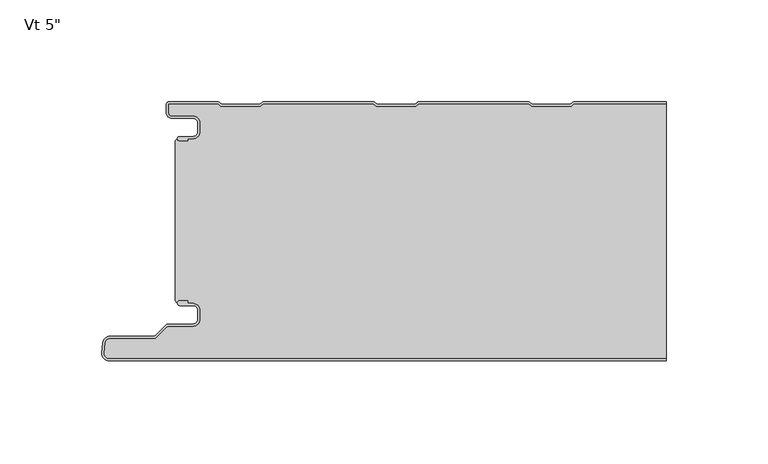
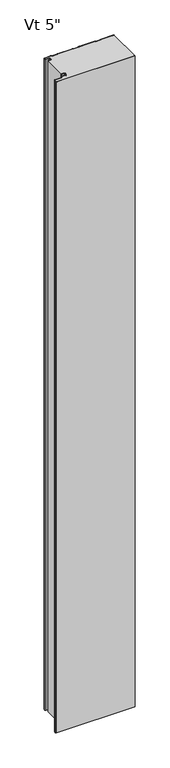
"""IFC4 building model written with IfcOpenShell, lengths in millimetres: plate geometry."""

from ifc_helpers import new_model, si_unit, point, frame, frame_2d, origin, origin_with_axes, place, context, project, spatial, polyline, circle_curve, trimmed, segment, composite_curve, outline, extrude, source, transform, mapped, element, save
from ifc_brep_helpers import plane_surface, cylinder_surface, revolved_surface, advanced_brep


def plate_43e1ebec(model_context):
    return source(origin(), model_context, "Body", "SolidModel", [
        advanced_brep(
        [(-118.368691, -17.0015034, 2400.0), (-119.3686883, -18.0015065, 2400.0), (-118.368691, -19.0014978, 2400.0), (-114.3684874, -19.0014979, 2400.0), (-114.3684874, -18.0015034, 2400.0), (-111.6762776, -18.0015034, 2400.0), (-108.3762819, -14.7015077, 2400.0), (-108.3762819, -10.3015164, 2400.0), (-111.6762774, -7.001521, 2400.0), (-122.0962563, -7.001521, 2400.0), (-123.8662505, -5.2315268, 2400.0), (-123.8662505, -0.9999791, 2400.0), (-99.3659738, -0.9999791, 2400.0), (-97.9803312, -2.2002182, 2400.0), (-78.6051649, -2.2002182, 2400.0), (-77.219532, -0.9999874, 2400.0), (-23.1661166, -0.9999874, 2400.0), (-21.7804836, -2.2002182, 2400.0), (-2.4053173, -2.2002182, 2400.0), (-1.0196844, -0.9999874, 2400.0), (53.033731, -0.9999874, 2400.0), (54.419364, -2.2002182, 2400.0), (73.7945303, -2.2002182, 2400.0), (75.1801632, -0.9999874, 2400.0), (120.3999998, -0.9999874, 2400.0), (120.3999998, 1.26e-05, 2400.0), (75.3293144, 1.26e-05, 2400.0), (74.4126975, -0.3417759, 2400.0), (73.4216499, -1.2002182, 2400.0), (54.7922444, -1.2002182, 2400.0), (53.8011968, -0.3417759, 2400.0), (52.8845799, 1.26e-05, 2400.0), (-0.8705332, 1.26e-05, 2400.0), (-1.7871501, -0.3417759, 2400.0), (-2.7781977, -1.2002182, 2400.0), (-21.4076032, -1.2002182, 2400.0), (-22.3986508, -0.3417759, 2400.0), (-23.3152677, 1.26e-05, 2400.0), (-77.0703808, 1.26e-05, 2400.0), (-77.9869977, -0.3417759, 2400.0), (-78.9780453, -1.2002182, 2400.0), (-97.6074508, -1.2002182, 2400.0), (-98.5984984, -0.3417759, 2400.0), (-99.5152067, 1.26e-05, 2400.0), (-123.4662543, 2.09e-05, 2400.0), (-124.8662505, -1.3999752, 2400.0), (-124.8662505, -5.2315268, 2400.0), (-122.0962563, -8.001521, 2400.0), (-111.6762774, -8.001521, 2400.0), (-109.3762819, -10.3015164, 2400.0), (-109.3762819, -14.7015077, 2400.0), (-111.6762776, -17.0015034, 2400.0), (-118.368691, -17.0015034, 0.0), (-111.6762776, -17.0015034, 0.0), (-109.3762819, -14.7015077, 0.0), (-109.3762819, -10.3015164, 0.0), (-111.6762774, -8.001521, 0.0), (-122.0962563, -8.001521, 0.0), (-124.8662505, -5.2315268, 0.0), (-124.8662505, -1.3999752, 0.0), (-123.4662543, 2.09e-05, 0.0), (-99.5151153, 2.09e-05, 0.0), (-98.5984984, -0.3417759, 0.0), (-97.6074508, -1.2002182, 0.0), (-78.9780453, -1.2002182, 0.0), (-77.9869977, -0.3417759, 0.0), (-77.0703808, 1.26e-05, 0.0), (-23.3152677, 1.26e-05, 0.0), (-22.3986508, -0.3417759, 0.0), (-21.4076032, -1.2002182, 0.0), (-2.7781977, -1.2002182, 0.0), (-1.7871501, -0.3417759, 0.0), (-0.8705332, 1.26e-05, 0.0), (52.8845799, 1.26e-05, 0.0), (53.8011968, -0.3417759, 0.0), (54.7922444, -1.2002182, 0.0), (73.4216499, -1.2002182, 0.0), (74.4126975, -0.3417759, 0.0), (75.3293144, 1.26e-05, 0.0), (120.3999998, 1.26e-05, 0.0), (120.3999998, -0.9999874, 0.0), (75.1801632, -0.9999874, 0.0), (73.7945303, -2.2002182, 0.0), (54.419364, -2.2002182, 0.0), (53.033731, -0.9999874, 0.0), (-1.0196844, -0.9999874, 0.0), (-2.4053173, -2.2002182, 0.0), (-21.7804836, -2.2002182, 0.0), (-23.1661166, -0.9999874, 0.0), (-77.219532, -0.9999874, 0.0), (-78.6051649, -2.2002182, 0.0), (-97.9803312, -2.2002182, 0.0), (-99.3659738, -0.9999791, 0.0), (-123.8662505, -0.9999791, 0.0), (-123.8662505, -5.2315268, 0.0), (-122.0962563, -7.001521, 0.0), (-111.6762774, -7.001521, 0.0), (-108.3762819, -10.3015164, 0.0), (-108.3762819, -14.7015077, 0.0), (-111.6762776, -18.0015034, 0.0), (-114.3684874, -18.0015034, 0.0), (-114.3684874, -19.0014979, 0.0), (-118.368691, -19.0014979, 0.0), (-119.3686882, -18.0015065, 0.0)],
        [
            (0, 1, circle_curve(frame((-118.368691, -18.0015006, 2400.0), z_axis=(0.0, 0.0, 1.0), x_axis=(1.0, 0.0, 0.0)), 0.9999973)),
            (1, 2, circle_curve(frame((-118.368691, -18.0015006, 2400.0), z_axis=(0.0, 0.0, 1.0), x_axis=(1.0, 0.0, 0.0)), 0.9999972)),
            (2, 3),
            (3, 4),
            (4, 5),
            (5, 6, circle_curve(frame((-111.6762776, -14.7015077, 2400.0), z_axis=(0.0, 0.0, 1.0), x_axis=(1.0, 0.0, 0.0)), 3.2999957)),
            (6, 7),
            (7, 8, circle_curve(frame((-111.6762774, -10.3015164, 2400.0), z_axis=(0.0, 0.0, 1.0), x_axis=(1.0, 0.0, 0.0)), 3.2999955)),
            (8, 9),
            (9, 10, circle_curve(frame((-122.0962563, -5.2315268, 2400.0), z_axis=(0.0, 0.0, -1.0), x_axis=(1.0, 0.0, 0.0)), 1.7699942)),
            (10, 11),
            (11, 12),
            (12, 13),
            (13, 14),
            (14, 15),
            (15, 16),
            (16, 17),
            (17, 18),
            (18, 19),
            (19, 20),
            (20, 21),
            (21, 22),
            (22, 23),
            (23, 24),
            (24, 25),
            (25, 26),
            (26, 27, circle_curve(frame((75.3293144, -1.3999846, 2400.0), z_axis=(0.0, 0.0, 1.0), x_axis=(1.0, 0.0, 0.0)), 1.3999972)),
            (27, 28),
            (28, 29),
            (29, 30),
            (30, 31, circle_curve(frame((52.8845799, -1.3999846, 2400.0), z_axis=(0.0, 0.0, 1.0), x_axis=(1.0, 0.0, 0.0)), 1.3999972)),
            (31, 32),
            (32, 33, circle_curve(frame((-0.8705332, -1.3999846, 2400.0), z_axis=(0.0, 0.0, 1.0), x_axis=(1.0, 0.0, 0.0)), 1.3999972)),
            (33, 34),
            (34, 35),
            (35, 36),
            (36, 37, circle_curve(frame((-23.3152677, -1.3999846, 2400.0), z_axis=(0.0, 0.0, 1.0), x_axis=(1.0, 0.0, 0.0)), 1.3999972)),
            (37, 38),
            (38, 39, circle_curve(frame((-77.0703808, -1.3999846, 2400.0), z_axis=(0.0, 0.0, 1.0), x_axis=(1.0, 0.0, 0.0)), 1.3999972)),
            (39, 40),
            (40, 41),
            (41, 42),
            (42, 43, circle_curve(frame((-99.5151153, -1.3999846, 2400.0), z_axis=(0.0, 0.0, 1.0), x_axis=(1.0, 0.0, 0.0)), 1.3999972)),
            (43, 44),
            (44, 45, circle_curve(frame((-123.4662543, -1.3999752, 2400.0), z_axis=(0.0, 0.0, 1.0), x_axis=(1.0, 0.0, 0.0)), 1.3999962)),
            (45, 46),
            (46, 47, circle_curve(frame((-122.0962563, -5.2315268, 2400.0), z_axis=(0.0, 0.0, 1.0), x_axis=(1.0, 0.0, 0.0)), 2.7699942)),
            (47, 48),
            (48, 49, circle_curve(frame((-111.6762774, -10.3015164, 2400.0), z_axis=(0.0, 0.0, -1.0), x_axis=(1.0, 0.0, 0.0)), 2.2999955)),
            (49, 50),
            (50, 51, circle_curve(frame((-111.6762776, -14.7015077, 2400.0), z_axis=(0.0, 0.0, -1.0), x_axis=(1.0, 0.0, 0.0)), 2.2999957)),
            (51, 0),
            (52, 53),
            (53, 54, circle_curve(frame((-111.6762776, -14.7015077, 0.0), z_axis=(0.0, 0.0, 1.0), x_axis=(1.0, 0.0, 0.0)), 2.2999957)),
            (54, 55),
            (55, 56, circle_curve(frame((-111.6762774, -10.3015164, 0.0), z_axis=(0.0, 0.0, 1.0), x_axis=(1.0, 0.0, 0.0)), 2.2999955)),
            (56, 57),
            (57, 58, circle_curve(frame((-122.0962563, -5.2315268, 0.0), z_axis=(0.0, 0.0, -1.0), x_axis=(1.0, 0.0, 0.0)), 2.7699942)),
            (58, 59),
            (59, 60, circle_curve(frame((-123.4662543, -1.3999752, 0.0), z_axis=(0.0, 0.0, -1.0), x_axis=(1.0, 0.0, 0.0)), 1.3999962)),
            (60, 61),
            (61, 62, circle_curve(frame((-99.5151153, -1.3999846, 0.0), z_axis=(0.0, 0.0, -1.0), x_axis=(1.0, 0.0, 0.0)), 1.3999972)),
            (62, 63),
            (63, 64),
            (64, 65),
            (65, 66, circle_curve(frame((-77.0703808, -1.3999846, 0.0), z_axis=(0.0, 0.0, -1.0), x_axis=(1.0, 0.0, 0.0)), 1.3999972)),
            (66, 67),
            (67, 68, circle_curve(frame((-23.3152677, -1.3999846, 0.0), z_axis=(0.0, 0.0, -1.0), x_axis=(1.0, 0.0, 0.0)), 1.3999972)),
            (68, 69),
            (69, 70),
            (70, 71),
            (71, 72, circle_curve(frame((-0.8705332, -1.3999846, 0.0), z_axis=(0.0, 0.0, -1.0), x_axis=(1.0, 0.0, 0.0)), 1.3999972)),
            (72, 73),
            (73, 74, circle_curve(frame((52.8845799, -1.3999846, 0.0), z_axis=(0.0, 0.0, -1.0), x_axis=(1.0, 0.0, 0.0)), 1.3999972)),
            (74, 75),
            (75, 76),
            (76, 77),
            (77, 78, circle_curve(frame((75.3293144, -1.3999846, 0.0), z_axis=(0.0, 0.0, -1.0), x_axis=(1.0, 0.0, 0.0)), 1.3999972)),
            (78, 79),
            (79, 80),
            (80, 81),
            (81, 82),
            (82, 83),
            (83, 84),
            (84, 85),
            (85, 86),
            (86, 87),
            (87, 88),
            (88, 89),
            (89, 90),
            (90, 91),
            (91, 92),
            (92, 93),
            (93, 94),
            (94, 95, circle_curve(frame((-122.0962563, -5.2315268, 0.0), z_axis=(0.0, 0.0, 1.0), x_axis=(1.0, 0.0, 0.0)), 1.7699942)),
            (95, 96),
            (96, 97, circle_curve(frame((-111.6762774, -10.3015164, 0.0), z_axis=(0.0, 0.0, -1.0), x_axis=(1.0, 0.0, 0.0)), 3.2999955)),
            (97, 98),
            (98, 99, circle_curve(frame((-111.6762776, -14.7015077, 0.0), z_axis=(0.0, 0.0, -1.0), x_axis=(1.0, 0.0, 0.0)), 3.2999957)),
            (99, 100),
            (100, 101),
            (101, 102),
            (102, 103, circle_curve(frame((-118.368691, -18.0015006, 0.0), z_axis=(0.0, 0.0, -1.0), x_axis=(1.0, 0.0, 0.0)), 0.9999972)),
            (103, 52, circle_curve(frame((-118.368691, -18.0015006, 0.0), z_axis=(0.0, 0.0, -1.0), x_axis=(1.0, 0.0, 0.0)), 0.9999973)),
            (24, 80),
            (79, 25),
            (51, 53),
            (52, 0),
            (50, 54),
            (49, 55),
            (48, 56),
            (47, 57),
            (46, 58),
            (45, 59),
            (44, 60),
            (43, 61),
            (78, 26),
            (42, 62),
            (41, 63),
            (40, 64),
            (38, 66),
            (65, 39),
            (36, 68),
            (67, 37),
            (77, 27),
            (76, 28),
            (31, 73),
            (72, 32),
            (71, 33),
            (34, 70),
            (69, 35),
            (30, 74),
            (29, 75),
            (2, 102),
            (101, 3),
            (1, 103),
            (23, 81),
            (22, 82),
            (21, 83),
            (20, 84),
            (19, 85),
            (18, 86),
            (17, 87),
            (16, 88),
            (15, 89),
            (14, 90),
            (13, 91),
            (12, 92),
            (11, 93),
            (10, 94),
            (9, 95),
            (8, 96),
            (7, 97),
            (6, 98),
            (5, 99),
            (4, 100),
        ],
        [
            plane_surface(frame((184.4000002, 1.26e-05, 2400.0), z_axis=(0.0, 0.0, 1.0), x_axis=(0.0, 1.0, 0.0))),
            plane_surface(frame((184.4000002, 1.26e-05, 0.0), z_axis=(0.0, 0.0, -1.0), x_axis=(0.0, 1.0, 0.0))),
            plane_surface(frame((120.3999998, -136.9999874, 2400.0), z_axis=(1.0, 0.0, 0.0), x_axis=(0.0, 0.0, -1.0))),
            plane_surface(frame((-118.368691, -17.0015034, 2400.0), z_axis=(0.0, 1.0, 0.0), x_axis=(0.0, 0.0, -1.0))),
            revolved_surface(polyline([(-109.37628190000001, -14.7015077, 0.0), (-109.37628190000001, -14.7015077, 2400.0)]), (-111.6762776, -14.7015077, 2400.0), (0.0, 0.0, -1.0)),
            plane_surface(frame((-109.3762819, -14.7015077, 2400.0), z_axis=(-1.0, 0.0, 0.0), x_axis=(0.0, 0.0, -1.0))),
            revolved_surface(polyline([(-109.37628190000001, -10.3015164, 0.0), (-109.37628190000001, -10.3015164, 2400.0)]), (-111.6762774, -10.3015164, 2400.0), (0.0, 0.0, -1.0)),
            plane_surface(frame((-111.6762774, -8.001521, 2400.0), z_axis=(0.0, -1.0, 0.0), x_axis=(0.0, 0.0, -1.0))),
            cylinder_surface(frame((-122.0962563, -5.2315268, 2400.0), z_axis=(0.0, 0.0, 1.0), x_axis=(1.0, 0.0, 0.0)), 2.7699942),
            plane_surface(frame((-124.8662505, -5.2315268, 2400.0), z_axis=(-1.0, 0.0, 0.0), x_axis=(0.0, 0.0, -1.0))),
            cylinder_surface(frame((-123.4662543, -1.3999752, 2400.0), z_axis=(0.0, 0.0, 1.0), x_axis=(1.0, 0.0, 0.0)), 1.3999962),
            plane_surface(frame((-123.4662543, 2.09e-05, 2400.0), z_axis=(0.0, 1.0, 0.0), x_axis=(0.0, 0.0, -1.0))),
            plane_surface(frame((75.3293144, 1.26e-05, 2400.0), z_axis=(0.0, 1.0, 0.0), x_axis=(0.0, 0.0, -1.0))),
            cylinder_surface(frame((-99.5151153, -1.3999846, 2400.0), z_axis=(0.0, 0.0, 1.0), x_axis=(1.0, 0.0, 0.0)), 1.3999972),
            plane_surface(frame((-98.5984984, -0.3417759, 2400.0), z_axis=(0.6547276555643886, 0.755864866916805, 0.0), x_axis=(0.0, 0.0, -1.0))),
            plane_surface(frame((-88.2927481, -1.2002182, 2400.0), z_axis=(0.0, 1.0, 0.0), x_axis=(0.0, 0.0, -1.0))),
            cylinder_surface(frame((-77.0703808, -1.3999846, 2400.0), z_axis=(0.0, 0.0, 1.0), x_axis=(1.0, 0.0, 0.0)), 1.3999972),
            plane_surface(frame((-78.9780453, -1.2002182, 2400.0), z_axis=(-0.6547276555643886, 0.755864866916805, 0.0), x_axis=(0.0, 0.0, -1.0))),
            cylinder_surface(frame((-23.3152677, -1.3999846, 2400.0), z_axis=(0.0, 0.0, 1.0), x_axis=(1.0, 0.0, 0.0)), 1.3999972),
            cylinder_surface(frame((75.3293144, -1.3999846, 2400.0), z_axis=(0.0, 0.0, 1.0), x_axis=(1.0, 0.0, 0.0)), 1.3999972),
            plane_surface(frame((73.4216499, -1.2002182, 2400.0), z_axis=(-0.6547276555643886, 0.755864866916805, 0.0), x_axis=(0.0, 0.0, -1.0))),
            plane_surface(frame((-0.8705332, 1.26e-05, 2400.0), z_axis=(0.0, 1.0, 0.0), x_axis=(0.0, 0.0, -1.0))),
            cylinder_surface(frame((-0.8705332, -1.3999846, 2400.0), z_axis=(0.0, 0.0, 1.0), x_axis=(1.0, 0.0, 0.0)), 1.3999972),
            plane_surface(frame((-12.0929005, -1.2002182, 2400.0), z_axis=(0.0, 1.0, 0.0), x_axis=(0.0, 0.0, -1.0))),
            plane_surface(frame((-22.3986508, -0.3417759, 2400.0), z_axis=(0.6547276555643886, 0.755864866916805, 0.0), x_axis=(0.0, 0.0, -1.0))),
            plane_surface(frame((-2.7781977, -1.2002182, 2400.0), z_axis=(-0.6547276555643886, 0.755864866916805, 0.0), x_axis=(0.0, 0.0, -1.0))),
            plane_surface(frame((-77.0703808, 1.26e-05, 2400.0), z_axis=(0.0, 1.0, 0.0), x_axis=(0.0, 0.0, -1.0))),
            cylinder_surface(frame((52.8845799, -1.3999846, 2400.0), z_axis=(0.0, 0.0, 1.0), x_axis=(1.0, 0.0, 0.0)), 1.3999972),
            plane_surface(frame((53.8011968, -0.3417759, 2400.0), z_axis=(0.6547276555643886, 0.755864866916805, 0.0), x_axis=(0.0, 0.0, -1.0))),
            plane_surface(frame((64.1069471, -1.2002182, 2400.0), z_axis=(0.0, 1.0, 0.0), x_axis=(0.0, 0.0, -1.0))),
            plane_surface(frame((-114.3684874, -19.0014979, 2400.0), z_axis=(0.0, -1.0, 0.0), x_axis=(0.0, 0.0, -1.0))),
            cylinder_surface(frame((-118.368691, -18.0015006, 2400.0), z_axis=(0.0, 0.0, 1.0), x_axis=(1.0, 0.0, 0.0)), 0.9999972),
            cylinder_surface(frame((-118.368691, -18.0015006, 2400.0), z_axis=(0.0, 0.0, 1.0), x_axis=(1.0, 0.0, 0.0)), 0.9999973),
            plane_surface(frame((129.2335786, -0.9999874, 2400.0), z_axis=(0.0, -1.0, 0.0), x_axis=(0.0, 0.0, -1.0))),
            plane_surface(frame((75.1801632, -0.9999874, 2400.0), z_axis=(0.6547276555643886, -0.755864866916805, 0.0), x_axis=(0.0, 0.0, -1.0))),
            plane_surface(frame((73.7945303, -2.2002182, 2400.0), z_axis=(0.0, -1.0, 0.0), x_axis=(0.0, 0.0, -1.0))),
            plane_surface(frame((54.419364, -2.2002182, 2400.0), z_axis=(-0.6547276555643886, -0.755864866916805, 0.0), x_axis=(0.0, 0.0, -1.0))),
            plane_surface(frame((53.033731, -0.9999874, 2400.0), z_axis=(0.0, -1.0, 0.0), x_axis=(0.0, 0.0, -1.0))),
            plane_surface(frame((-1.0196844, -0.9999874, 2400.0), z_axis=(0.6547276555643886, -0.755864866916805, 0.0), x_axis=(0.0, 0.0, -1.0))),
            plane_surface(frame((-2.4053173, -2.2002182, 2400.0), z_axis=(0.0, -1.0, 0.0), x_axis=(0.0, 0.0, -1.0))),
            plane_surface(frame((-21.7804836, -2.2002182, 2400.0), z_axis=(-0.6547276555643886, -0.755864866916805, 0.0), x_axis=(0.0, 0.0, -1.0))),
            plane_surface(frame((-23.1661166, -0.9999874, 2400.0), z_axis=(0.0, -1.0, 0.0), x_axis=(0.0, 0.0, -1.0))),
            plane_surface(frame((-77.219532, -0.9999874, 2400.0), z_axis=(0.6547276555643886, -0.755864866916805, 0.0), x_axis=(0.0, 0.0, -1.0))),
            plane_surface(frame((-78.6051649, -2.2002182, 2400.0), z_axis=(0.0, -1.0, 0.0), x_axis=(0.0, 0.0, -1.0))),
            plane_surface(frame((-97.9803312, -2.2002182, 2400.0), z_axis=(-0.6547276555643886, -0.755864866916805, 0.0), x_axis=(0.0, 0.0, -1.0))),
            plane_surface(frame((-99.3659738, -0.9999791, 2400.0), z_axis=(0.0, -1.0, 0.0), x_axis=(0.0, 0.0, -1.0))),
            plane_surface(frame((-123.8662505, -0.9999791, 2400.0), z_axis=(1.0, 0.0, 0.0), x_axis=(0.0, 0.0, -1.0))),
            revolved_surface(polyline([(-120.3262621, -5.2315268, 0.0), (-120.3262621, -5.2315268, 2400.0)]), (-122.0962563, -5.2315268, 2400.0), (0.0, 0.0, -1.0)),
            plane_surface(frame((-122.0962563, -7.001521, 2400.0), z_axis=(0.0, 1.0, 0.0), x_axis=(0.0, 0.0, -1.0))),
            cylinder_surface(frame((-111.6762774, -10.3015164, 2400.0), z_axis=(0.0, 0.0, 1.0), x_axis=(1.0, 0.0, 0.0)), 3.2999955),
            plane_surface(frame((-108.3762819, -10.3015164, 2400.0), z_axis=(1.0, 0.0, 0.0), x_axis=(0.0, 0.0, -1.0))),
            cylinder_surface(frame((-111.6762776, -14.7015077, 2400.0), z_axis=(0.0, 0.0, 1.0), x_axis=(1.0, 0.0, 0.0)), 3.2999957),
            plane_surface(frame((-111.6762776, -18.0015034, 2400.0), z_axis=(0.0, -1.0, 0.0), x_axis=(0.0, 0.0, -1.0))),
            plane_surface(frame((-114.3684874, -18.0015034, 2400.0), z_axis=(1.0, 0.0, 0.0), x_axis=(0.0, 0.0, -1.0))),
        ],
        [
            (0, [[1, 2, 3, 4, 5, 6, 7, 8, 9, 10, 11, 12, 13, 14, 15, 16, 17, 18, 19, 20, 21, 22, 23, 24, 25, 26, 27, 28, 29, 30, 31, 32, 33, 34, 35, 36, 37, 38, 39, 40, 41, 42, 43, 44, 45, 46, 47, 48, 49, 50, 51, 52]]),
            (1, [[53, 54, 55, 56, 57, 58, 59, 60, 61, 62, 63, 64, 65, 66, 67, 68, 69, 70, 71, 72, 73, 74, 75, 76, 77, 78, 79, 80, 81, 82, 83, 84, 85, 86, 87, 88, 89, 90, 91, 92, 93, 94, 95, 96, 97, 98, 99, 100, 101, 102, 103, 104]]),
            (2, [[105, -80, 106, -25]]),
            (3, [[107, -53, 108, -52]]),
            (4, [[109, -54, -107, -51]]),
            (5, [[110, -55, -109, -50]]),
            (6, [[111, -56, -110, -49]]),
            (7, [[112, -57, -111, -48]]),
            (8, [[113, -58, -112, -47]]),
            (9, [[114, -59, -113, -46]]),
            (10, [[115, -60, -114, -45]]),
            (11, [[116, -61, -115, -44]]),
            (12, [[-26, -106, -79, 117]]),
            (13, [[118, -62, -116, -43]]),
            (14, [[119, -63, -118, -42]]),
            (15, [[120, -64, -119, -41]]),
            (16, [[121, -66, 122, -39]]),
            (17, [[-122, -65, -120, -40]]),
            (18, [[123, -68, 124, -37]]),
            (19, [[-117, -78, 125, -27]]),
            (20, [[-125, -77, 126, -28]]),
            (21, [[127, -73, 128, -32]]),
            (22, [[-128, -72, 129, -33]]),
            (23, [[130, -70, 131, -35]]),
            (24, [[-131, -69, -123, -36]]),
            (25, [[-129, -71, -130, -34]]),
            (26, [[-124, -67, -121, -38]]),
            (27, [[132, -74, -127, -31]]),
            (28, [[133, -75, -132, -30]]),
            (29, [[-126, -76, -133, -29]]),
            (30, [[134, -102, 135, -3]]),
            (31, [[136, -103, -134, -2]]),
            (32, [[-108, -104, -136, -1]]),
            (33, [[-81, -105, -24, 137]]),
            (34, [[138, -82, -137, -23]]),
            (35, [[139, -83, -138, -22]]),
            (36, [[140, -84, -139, -21]]),
            (37, [[141, -85, -140, -20]]),
            (38, [[142, -86, -141, -19]]),
            (39, [[143, -87, -142, -18]]),
            (40, [[144, -88, -143, -17]]),
            (41, [[145, -89, -144, -16]]),
            (42, [[146, -90, -145, -15]]),
            (43, [[147, -91, -146, -14]]),
            (44, [[148, -92, -147, -13]]),
            (45, [[149, -93, -148, -12]]),
            (46, [[150, -94, -149, -11]]),
            (47, [[151, -95, -150, -10]]),
            (48, [[152, -96, -151, -9]]),
            (49, [[153, -97, -152, -8]]),
            (50, [[154, -98, -153, -7]]),
            (51, [[155, -99, -154, -6]]),
            (52, [[156, -100, -155, -5]]),
            (53, [[-135, -101, -156, -4]]),
        ],
    ),
        extrude(outline(composite_curve([segment(polyline([(-156.4087505, -123.1183478), (-155.9690674, -118.0944311)]), True, "CONTINUOUS"), segment(trimmed(circle_curve(frame_2d((-152.3198391, -118.7052322)), 3.6999926), [point((-155.9690674, -118.0944311))], [point((-152.3198391, -115.0052396))], False, "CARTESIAN"), True, "CONTINUOUS"), segment(polyline([(-152.3198391, -115.0052396), (-131.1773995, -115.0052396)]), True, "CONTINUOUS"), segment(trimmed(circle_curve(frame_2d((-131.1773995, -113.7052422)), 1.2999974), [point((-131.1773995, -115.0052396))], [point((-130.2581626, -114.6244792))], True, "CARTESIAN"), True, "CONTINUOUS"), segment(polyline([(-130.2581626, -114.6244792), (-125.4297451, -109.7960618)]), True, "CONTINUOUS"), segment(trimmed(circle_curve(frame_2d((-123.5205606, -111.7052462)), 2.6999946), [point((-125.4297451, -109.7960618))], [point((-123.5205606, -109.0052516))], False, "CARTESIAN"), True, "CONTINUOUS"), segment(polyline([(-123.5205606, -109.0052516), (-111.7096715, -109.0052516)]), True, "CONTINUOUS"), segment(trimmed(circle_curve(frame_2d((-111.7096715, -106.6552563)), 2.3499953), [point((-111.7096715, -109.0052516))], [point((-109.3596762, -106.6552563))], True, "CARTESIAN"), True, "CONTINUOUS"), segment(polyline([(-109.3596762, -106.6552563), (-109.3596762, -102.2552651)]), True, "CONTINUOUS"), segment(trimmed(circle_curve(frame_2d((-111.7096715, -102.2552651)), 2.3499953), [point((-109.3596762, -102.2552651))], [point((-111.7096715, -99.9052698))], True, "CARTESIAN"), True, "CONTINUOUS"), segment(polyline([(-111.7096715, -99.9052698), (-118.2289777, -99.9052698)]), True, "CONTINUOUS"), segment(trimmed(circle_curve(frame_2d((-118.1686906, -98.7067876)), 1.1999976), [point((-118.2289777, -99.9052698))], [point((-119.3683, -98.6762657))], False, "CARTESIAN"), True, "CONTINUOUS"), segment(trimmed(circle_curve(frame_2d((-118.1686906, -98.7067876)), 1.1999976), [point((-119.3683, -98.6762657))], [point((-118.167176, -97.506791))], False, "CARTESIAN"), True, "CONTINUOUS"), segment(polyline([(-118.167176, -97.506791), (-114.4087826, -97.506791), (-114.4087826, -98.9052698), (-111.7096715, -98.9052698)]), True, "CONTINUOUS"), segment(trimmed(circle_curve(frame_2d((-111.7096715, -102.2552651)), 3.3499953), [point((-111.7096715, -98.9052698))], [point((-108.3596762, -102.2552651))], False, "CARTESIAN"), True, "CONTINUOUS"), segment(polyline([(-108.3596762, -102.2552651), (-108.3596762, -106.6552563)]), True, "CONTINUOUS"), segment(trimmed(circle_curve(frame_2d((-111.7096715, -106.6552563)), 3.3499953), [point((-108.3596762, -106.6552563))], [point((-111.7096715, -110.0052516))], False, "CARTESIAN"), True, "CONTINUOUS"), segment(polyline([(-111.7096715, -110.0052516), (-123.5205606, -110.0052516)]), True, "CONTINUOUS"), segment(trimmed(circle_curve(frame_2d((-123.5205606, -111.7052462)), 1.6999946), [point((-123.5205606, -110.0052516))], [point((-124.7226383, -110.5031685))], True, "CARTESIAN"), True, "CONTINUOUS"), segment(polyline([(-124.7226383, -110.5031685), (-130.2247094, -116.0052396), (-152.3198391, -116.0052396)]), True, "CONTINUOUS"), segment(trimmed(circle_curve(frame_2d((-152.3198391, -118.7052322)), 2.6999926), [point((-152.3198391, -116.0052396))], [point((-154.9765707, -118.2238416))], True, "CARTESIAN"), True, "CONTINUOUS"), segment(polyline([(-154.9765707, -118.2238416), (-155.4125697, -123.2056625)]), True, "CONTINUOUS"), segment(trimmed(circle_curve(frame_2d((-152.8521175, -123.4297482)), 2.5702393), [point((-155.4125697, -123.2056625))], [point((-152.9094458, -125.999348))], True, "CARTESIAN"), True, "CONTINUOUS"), segment(polyline([(-152.9094458, -125.999348), (120.3999998, -125.999348), (120.3999998, -126.9996828), (-152.8521038, -126.9998575)]), True, "CONTINUOUS"), segment(trimmed(circle_curve(frame_2d((-152.8521061, -123.4296182)), 3.5702393), [point((-152.8521038, -126.9998575))], [point((-156.4087505, -123.1183478))], False, "CARTESIAN"), True, "CONTINUOUS")], self_intersect=False)), origin_with_axes(), (0.0, 0.0, 1.0), 2400.0),
        advanced_brep(
        [(-119.3683, -98.6708624, 2400.0), (-118.167176, -97.5013877, 2400.0), (-114.4087826, -97.5013877, 2400.0), (-114.4087826, -98.8998666, 2400.0), (-111.7096715, -98.8998666, 2400.0), (-108.3596762, -102.2498619, 2400.0), (-108.3596762, -106.6498531, 2400.0), (-111.7096715, -109.9998484, 2400.0), (-123.5205606, -109.9998484, 2400.0), (-124.7226383, -110.4977653, 2400.0), (-130.2247094, -115.9998364, 2400.0), (-152.3198391, -115.9998364, 2400.0), (-154.9765707, -118.2184384, 2400.0), (-155.4125697, -123.2002592, 2400.0), (-152.8521175, -125.9945842, 2400.0), (120.3999998, -125.9999874, 2400.0), (120.3999998, -0.9999874, 2400.0), (75.1801633, -0.9999874, 2400.0), (73.7945303, -2.2002182, 2400.0), (54.419364, -2.2002182, 2400.0), (53.0337311, -0.9999874, 2400.0), (-1.0196843, -0.9999874, 2400.0), (-2.4053173, -2.2002182, 2400.0), (-21.7804836, -2.2002182, 2400.0), (-23.1661165, -0.9999874, 2400.0), (-77.2195319, -0.9999874, 2400.0), (-78.6051649, -2.2002182, 2400.0), (-97.9803312, -2.2002182, 2400.0), (-99.3659738, -0.9999791, 2400.0), (-123.8662504, -0.9999791, 2400.0), (-123.8662504, -5.2315264, 2400.0), (-122.0962562, -7.0015206, 2400.0), (-111.6762777, -7.0015206, 2400.0), (-108.3762818, -10.3015164, 2400.0), (-108.3762818, -14.7015077, 2400.0), (-111.6762775, -18.0015034, 2400.0), (-114.3684873, -18.0015034, 2400.0), (-114.3684873, -19.0014979, 2400.0), (-118.368691, -19.0014979, 2400.0), (-119.3686882, -18.0015066, 2400.0), (-120.3999998, -19.0328183, 2400.0), (-120.3999998, -97.6391626, 2400.0), (-119.3683, -98.6708624, 0.0), (-120.3999998, -97.6391626, 0.0), (-120.3999998, -19.0328183, 0.0), (-119.3686882, -18.0015066, 0.0), (-118.368691, -19.0014979, 0.0), (-114.3684873, -19.0014979, 0.0), (-114.3684873, -18.0015034, 0.0), (-111.6762775, -18.0015034, 0.0), (-108.3762818, -14.7015077, 0.0), (-108.3762818, -10.3015164, 0.0), (-111.6762777, -7.0015206, 0.0), (-122.0962562, -7.0015206, 0.0), (-123.8662504, -5.2315264, 0.0), (-123.8662504, -0.9999791, 0.0), (-99.3659738, -0.9999791, 0.0), (-97.9803312, -2.2002182, 0.0), (-78.6051649, -2.2002182, 0.0), (-77.2195319, -0.9999874, 0.0), (-23.1661165, -0.9999874, 0.0), (-21.7804836, -2.2002182, 0.0), (-2.4053173, -2.2002182, 0.0), (-1.0196843, -0.9999874, 0.0), (53.0337311, -0.9999874, 0.0), (54.419364, -2.2002182, 0.0), (73.7945303, -2.2002182, 0.0), (75.1801633, -0.9999874, 0.0), (120.3999998, -0.9999874, 0.0), (120.3999998, -125.9999874, 0.0), (-152.8521175, -125.9999874, 0.0), (-155.4125697, -123.2002592, 0.0), (-154.9765707, -118.2184384, 0.0), (-152.3198391, -115.9998364, 0.0), (-130.2247094, -115.9998364, 0.0), (-124.7226383, -110.4977653, 0.0), (-123.5205606, -109.9998484, 0.0), (-111.7096715, -109.9998484, 0.0), (-108.3596762, -106.6498531, 0.0), (-108.3596762, -102.2498619, 0.0), (-111.7096715, -98.8998666, 0.0), (-114.4087826, -98.8998666, 0.0), (-114.4087826, -97.5013877, 0.0), (-118.167176, -97.5013877, 0.0)],
        [
            (0, 1, circle_curve(frame((-118.1686906, -98.7013843, 2400.0), z_axis=(0.0, 0.0, -1.0), x_axis=(-1.0, 0.0, 0.0)), 1.1999976)),
            (1, 2),
            (2, 3),
            (3, 4),
            (4, 5, circle_curve(frame((-111.7096715, -102.2498619, 2400.0), z_axis=(0.0, 0.0, -1.0), x_axis=(-1.0, 0.0, 0.0)), 3.3499953)),
            (5, 6),
            (6, 7, circle_curve(frame((-111.7096715, -106.6498531, 2400.0), z_axis=(0.0, 0.0, -1.0), x_axis=(-1.0, 0.0, 0.0)), 3.3499953)),
            (7, 8),
            (8, 9, circle_curve(frame((-123.5205606, -111.699843, 2400.0), z_axis=(0.0, 0.0, 1.0), x_axis=(-1.0, 0.0, 0.0)), 1.6999946)),
            (9, 10),
            (10, 11),
            (11, 12, circle_curve(frame((-152.3198391, -118.699829, 2400.0), z_axis=(0.0, 0.0, 1.0), x_axis=(-1.0, 0.0, 0.0)), 2.6999926)),
            (12, 13),
            (13, 14, circle_curve(frame((-152.8521175, -123.4243449, 2400.0), z_axis=(0.0, 0.0, 1.0), x_axis=(-1.0, 0.0, 0.0)), 2.5702393)),
            (14, 15),
            (15, 16),
            (16, 17),
            (17, 18),
            (18, 19),
            (19, 20),
            (20, 21),
            (21, 22),
            (22, 23),
            (23, 24),
            (24, 25),
            (25, 26),
            (26, 27),
            (27, 28),
            (28, 29),
            (29, 30),
            (30, 31, circle_curve(frame((-122.0962562, -5.2315264, 2400.0), z_axis=(0.0, 0.0, 1.0), x_axis=(1.0, 0.0, 0.0)), 1.7699942)),
            (31, 32),
            (32, 33, circle_curve(frame((-111.6762777, -10.3015164, 2400.0), z_axis=(0.0, 0.0, -1.0), x_axis=(1.0, 0.0, 0.0)), 3.2999959)),
            (33, 34),
            (34, 35, circle_curve(frame((-111.6762775, -14.7015077, 2400.0), z_axis=(0.0, 0.0, -1.0), x_axis=(1.0, 0.0, 0.0)), 3.2999957)),
            (35, 36),
            (36, 37),
            (37, 38),
            (38, 39, circle_curve(frame((-118.368691, -18.0015007, 2400.0), z_axis=(0.0, 0.0, -1.0), x_axis=(1.0, 0.0, 0.0)), 0.9999972)),
            (39, 40),
            (40, 41),
            (41, 0),
            (42, 43),
            (43, 44),
            (44, 45),
            (45, 46, circle_curve(frame((-118.368691, -18.0015007, 0.0), z_axis=(0.0, 0.0, 1.0), x_axis=(1.0, 0.0, 0.0)), 0.9999972)),
            (46, 47),
            (47, 48),
            (48, 49),
            (49, 50, circle_curve(frame((-111.6762775, -14.7015077, 0.0), z_axis=(0.0, 0.0, 1.0), x_axis=(1.0, 0.0, 0.0)), 3.2999957)),
            (50, 51),
            (51, 52, circle_curve(frame((-111.6762777, -10.3015164, 0.0), z_axis=(0.0, 0.0, 1.0), x_axis=(1.0, 0.0, 0.0)), 3.2999959)),
            (52, 53),
            (53, 54, circle_curve(frame((-122.0962562, -5.2315264, 0.0), z_axis=(0.0, 0.0, -1.0), x_axis=(1.0, 0.0, 0.0)), 1.7699942)),
            (54, 55),
            (55, 56),
            (56, 57),
            (57, 58),
            (58, 59),
            (59, 60),
            (60, 61),
            (61, 62),
            (62, 63),
            (63, 64),
            (64, 65),
            (65, 66),
            (66, 67),
            (67, 68),
            (68, 69),
            (69, 70),
            (70, 71, circle_curve(frame((-152.8521175, -123.4243449, 0.0), z_axis=(0.0, 0.0, -1.0), x_axis=(-1.0, 0.0, 0.0)), 2.5702393)),
            (71, 72),
            (72, 73, circle_curve(frame((-152.3198391, -118.699829, 0.0), z_axis=(0.0, 0.0, -1.0), x_axis=(-1.0, 0.0, 0.0)), 2.6999926)),
            (73, 74),
            (74, 75),
            (75, 76, circle_curve(frame((-123.5205606, -111.699843, 0.0), z_axis=(0.0, 0.0, -1.0), x_axis=(-1.0, 0.0, 0.0)), 1.6999946)),
            (76, 77),
            (77, 78, circle_curve(frame((-111.7096715, -106.6498531, 0.0), z_axis=(0.0, 0.0, 1.0), x_axis=(-1.0, 0.0, 0.0)), 3.3499953)),
            (78, 79),
            (79, 80, circle_curve(frame((-111.7096715, -102.2498619, 0.0), z_axis=(0.0, 0.0, 1.0), x_axis=(-1.0, 0.0, 0.0)), 3.3499953)),
            (80, 81),
            (81, 82),
            (82, 83),
            (83, 42, circle_curve(frame((-118.1686906, -98.7013843, 0.0), z_axis=(0.0, 0.0, 1.0), x_axis=(-1.0, 0.0, 0.0)), 1.1999976)),
            (41, 43),
            (42, 0),
            (40, 44),
            (69, 15),
            (14, 70),
            (13, 71),
            (12, 72),
            (11, 73),
            (10, 74),
            (9, 75),
            (8, 76),
            (7, 77),
            (6, 78),
            (5, 79),
            (4, 80),
            (3, 81),
            (2, 82),
            (1, 83),
            (39, 45),
            (38, 46),
            (37, 47),
            (36, 48),
            (35, 49),
            (34, 50),
            (33, 51),
            (32, 52),
            (31, 53),
            (30, 54),
            (29, 55),
            (27, 57),
            (56, 28),
            (68, 16),
            (26, 58),
            (25, 59),
            (24, 60),
            (23, 61),
            (22, 62),
            (21, 63),
            (20, 64),
            (19, 65),
            (18, 66),
            (17, 67),
        ],
        [
            plane_surface(frame((184.4000002, -125.9999874, 2400.0), z_axis=(0.0, 0.0, 1.0), x_axis=(0.0, -1.0, 0.0))),
            plane_surface(frame((184.4000002, -125.9999874, 0.0), z_axis=(0.0, 0.0, -1.0), x_axis=(0.0, -1.0, 0.0))),
            plane_surface(frame((-119.3683, -98.6708624, 2400.0), z_axis=(-0.7071067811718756, -0.7071067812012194, 0.0), x_axis=(0.0, 0.0, -1.0))),
            plane_surface(frame((-120.3999998, -97.6391626, 2400.0), z_axis=(-1.0, 0.0, 0.0), x_axis=(0.0, 0.0, -1.0))),
            plane_surface(frame((440.7156221, -125.9999874, 2400.0), z_axis=(0.0, -1.0, 0.0), x_axis=(0.0, 0.0, -1.0))),
            cylinder_surface(frame((-152.8521175, -123.4243449, 2400.0), z_axis=(0.0, 0.0, 1.0), x_axis=(-1.0, 0.0, 0.0)), 2.5702393),
            plane_surface(frame((-155.4125697, -123.2002592, 2400.0), z_axis=(-0.9961921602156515, 0.08718474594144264, 0.0), x_axis=(0.0, 0.0, -1.0))),
            cylinder_surface(frame((-152.3198391, -118.699829, 2400.0), z_axis=(0.0, 0.0, 1.0), x_axis=(-1.0, 0.0, 0.0)), 2.6999926),
            plane_surface(frame((-152.3198391, -115.9998364, 2400.0), z_axis=(0.0, 1.0, 0.0), x_axis=(0.0, 0.0, -1.0))),
            plane_surface(frame((-130.2247094, -115.9998364, 2400.0), z_axis=(-0.7071067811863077, 0.7071067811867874, 0.0), x_axis=(0.0, 0.0, -1.0))),
            cylinder_surface(frame((-123.5205606, -111.699843, 2400.0), z_axis=(0.0, 0.0, 1.0), x_axis=(-1.0, 0.0, 0.0)), 1.6999946),
            plane_surface(frame((-123.5205606, -109.9998484, 2400.0), z_axis=(0.0, 1.0, 0.0), x_axis=(0.0, 0.0, -1.0))),
            revolved_surface(polyline([(-115.0596668, -106.6498531, 0.0), (-115.0596668, -106.6498531, 2400.0)]), (-111.7096715, -106.6498531, 2400.0), (0.0, 0.0, -1.0)),
            plane_surface(frame((-108.3596762, -106.6498531, 2400.0), z_axis=(-1.0, 0.0, 0.0), x_axis=(0.0, 0.0, -1.0))),
            revolved_surface(polyline([(-115.0596668, -102.2498619, 0.0), (-115.0596668, -102.2498619, 2400.0)]), (-111.7096715, -102.2498619, 2400.0), (0.0, 0.0, -1.0)),
            plane_surface(frame((-111.7096715, -98.8998666, 2400.0), z_axis=(0.0, -1.0, 0.0), x_axis=(0.0, 0.0, -1.0))),
            plane_surface(frame((-114.4087826, -98.8998666, 2400.0), z_axis=(-1.0, 0.0, 0.0), x_axis=(0.0, 0.0, -1.0))),
            plane_surface(frame((-114.4087826, -97.5013877, 2400.0), z_axis=(0.0, -1.0, 0.0), x_axis=(0.0, 0.0, -1.0))),
            revolved_surface(polyline([(-119.36868820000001, -98.7013843, 0.0), (-119.36868820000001, -98.7013843, 2400.0)]), (-118.1686906, -98.7013843, 2400.0), (0.0, 0.0, -1.0)),
            plane_surface(frame((-120.3999998, -19.0328183, 2400.0), z_axis=(-0.7071067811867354, 0.7071067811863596, 0.0), x_axis=(0.0, 0.0, -1.0))),
            revolved_surface(polyline([(-117.3686938, -18.0015007, 0.0), (-117.3686938, -18.0015007, 2400.0)]), (-118.368691, -18.0015007, 2400.0), (0.0, 0.0, -1.0)),
            plane_surface(frame((-118.368691, -19.0014979, 2400.0), z_axis=(0.0, 1.0, 0.0), x_axis=(0.0, 0.0, -1.0))),
            plane_surface(frame((-114.3684873, -19.0014979, 2400.0), z_axis=(-1.0, 0.0, 0.0), x_axis=(0.0, 0.0, -1.0))),
            plane_surface(frame((-114.3684873, -18.0015034, 2400.0), z_axis=(0.0, 1.0, 0.0), x_axis=(0.0, 0.0, -1.0))),
            revolved_surface(polyline([(-108.3762818, -14.7015077, 0.0), (-108.3762818, -14.7015077, 2400.0)]), (-111.6762775, -14.7015077, 2400.0), (0.0, 0.0, -1.0)),
            plane_surface(frame((-108.3762818, -14.7015077, 2400.0), z_axis=(-1.0, 0.0, 0.0), x_axis=(0.0, 0.0, -1.0))),
            revolved_surface(polyline([(-108.3762818, -10.3015164, 0.0), (-108.3762818, -10.3015164, 2400.0)]), (-111.6762777, -10.3015164, 2400.0), (0.0, 0.0, -1.0)),
            plane_surface(frame((-111.6762777, -7.0015206, 2400.0), z_axis=(0.0, -1.0, 0.0), x_axis=(0.0, 0.0, -1.0))),
            cylinder_surface(frame((-122.0962562, -5.2315264, 2400.0), z_axis=(0.0, 0.0, 1.0), x_axis=(1.0, 0.0, 0.0)), 1.7699942),
            plane_surface(frame((-123.8662504, -5.2315264, 2400.0), z_axis=(-1.0, 0.0, 0.0), x_axis=(0.0, 0.0, -1.0))),
            plane_surface(frame((-99.3659738, -0.9999791, 2400.0), z_axis=(0.6547276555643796, 0.7558648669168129, 0.0), x_axis=(0.0, 0.0, -1.0))),
            plane_surface(frame((-123.8662504, -0.9999791, 2400.0), z_axis=(0.0, 1.0, 0.0), x_axis=(0.0, 0.0, -1.0))),
            plane_surface(frame((120.3999998, -136.9999874, 2400.0), z_axis=(1.0, 0.0, 0.0), x_axis=(0.0, 0.0, -1.0))),
            plane_surface(frame((-97.9803312, -2.2002182, 2400.0), z_axis=(0.0, 1.0, 0.0), x_axis=(0.0, 0.0, -1.0))),
            plane_surface(frame((-78.6051649, -2.2002182, 2400.0), z_axis=(-0.6547276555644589, 0.7558648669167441, 0.0), x_axis=(0.0, 0.0, -1.0))),
            plane_surface(frame((-77.2195319, -0.9999874, 2400.0), z_axis=(0.0, 1.0, 0.0), x_axis=(0.0, 0.0, -1.0))),
            plane_surface(frame((-23.1661165, -0.9999874, 2400.0), z_axis=(0.6547276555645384, 0.7558648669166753, 0.0), x_axis=(0.0, 0.0, -1.0))),
            plane_surface(frame((-21.7804836, -2.2002182, 2400.0), z_axis=(0.0, 1.0, 0.0), x_axis=(0.0, 0.0, -1.0))),
            plane_surface(frame((-2.4053173, -2.2002182, 2400.0), z_axis=(-0.6547276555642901, 0.7558648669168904, 0.0), x_axis=(0.0, 0.0, -1.0))),
            plane_surface(frame((-1.0196843, -0.9999874, 2400.0), z_axis=(0.0, 1.0, 0.0), x_axis=(0.0, 0.0, -1.0))),
            plane_surface(frame((53.0337311, -0.9999874, 2400.0), z_axis=(0.6547276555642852, 0.7558648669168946, 0.0), x_axis=(0.0, 0.0, -1.0))),
            plane_surface(frame((54.419364, -2.2002182, 2400.0), z_axis=(0.0, 1.0, 0.0), x_axis=(0.0, 0.0, -1.0))),
            plane_surface(frame((73.7945303, -2.2002182, 2400.0), z_axis=(-0.6547276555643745, 0.7558648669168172, 0.0), x_axis=(0.0, 0.0, -1.0))),
            plane_surface(frame((75.1801633, -0.9999874, 2400.0), z_axis=(0.0, 1.0, 0.0), x_axis=(0.0, 0.0, -1.0))),
        ],
        [
            (0, [[1, 2, 3, 4, 5, 6, 7, 8, 9, 10, 11, 12, 13, 14, 15, 16, 17, 18, 19, 20, 21, 22, 23, 24, 25, 26, 27, 28, 29, 30, 31, 32, 33, 34, 35, 36, 37, 38, 39, 40, 41, 42]]),
            (1, [[43, 44, 45, 46, 47, 48, 49, 50, 51, 52, 53, 54, 55, 56, 57, 58, 59, 60, 61, 62, 63, 64, 65, 66, 67, 68, 69, 70, 71, 72, 73, 74, 75, 76, 77, 78, 79, 80, 81, 82, 83, 84]]),
            (2, [[85, -43, 86, -42]]),
            (3, [[-41, 87, -44, -85]]),
            (4, [[-70, 88, -15, 89]]),
            (5, [[90, -71, -89, -14]]),
            (6, [[91, -72, -90, -13]]),
            (7, [[92, -73, -91, -12]]),
            (8, [[93, -74, -92, -11]]),
            (9, [[94, -75, -93, -10]]),
            (10, [[95, -76, -94, -9]]),
            (11, [[96, -77, -95, -8]]),
            (12, [[97, -78, -96, -7]]),
            (13, [[98, -79, -97, -6]]),
            (14, [[99, -80, -98, -5]]),
            (15, [[100, -81, -99, -4]]),
            (16, [[101, -82, -100, -3]]),
            (17, [[102, -83, -101, -2]]),
            (18, [[-86, -84, -102, -1]]),
            (19, [[103, -45, -87, -40]]),
            (20, [[104, -46, -103, -39]]),
            (21, [[105, -47, -104, -38]]),
            (22, [[106, -48, -105, -37]]),
            (23, [[107, -49, -106, -36]]),
            (24, [[108, -50, -107, -35]]),
            (25, [[109, -51, -108, -34]]),
            (26, [[110, -52, -109, -33]]),
            (27, [[111, -53, -110, -32]]),
            (28, [[112, -54, -111, -31]]),
            (29, [[113, -55, -112, -30]]),
            (30, [[114, -57, 115, -28]]),
            (31, [[-115, -56, -113, -29]]),
            (32, [[-88, -69, 116, -16]]),
            (33, [[117, -58, -114, -27]]),
            (34, [[118, -59, -117, -26]]),
            (35, [[119, -60, -118, -25]]),
            (36, [[120, -61, -119, -24]]),
            (37, [[121, -62, -120, -23]]),
            (38, [[122, -63, -121, -22]]),
            (39, [[123, -64, -122, -21]]),
            (40, [[124, -65, -123, -20]]),
            (41, [[125, -66, -124, -19]]),
            (42, [[126, -67, -125, -18]]),
            (43, [[-17, -116, -68, -126]]),
        ],
    ),
    ])


if __name__ == "__main__":
    model = new_model("IFC4")
    model_context = context("Model", 3, world=origin())
    ifc_project = project(units=[si_unit("LENGTHUNIT", "METRE", prefix="MILLI")], contexts=[model_context])
    site = spatial("IfcSite", under=ifc_project)
    building = spatial("IfcBuilding", under=site)
    placement = place(None, origin())
    plate_shape = plate_43e1ebec(model_context)
    element("IfcPlate", 1, ObjectType="KIP-24-Karrier-KP-R19-CP-Vt-FL3-8in_SL : Vt 5\"", at=placement, inside=building, context=model_context, shape_type="MappedRepresentation", body=[
        mapped(plate_shape, transform((0.0, 0.0, 0.0), x_axis=(1.0, 0.0, 0.0), y_axis=(0.0, 1.0, 0.0), z_axis=(0.0, 0.0, 1.0))),
    ])
    save(model, "model.ifc")
